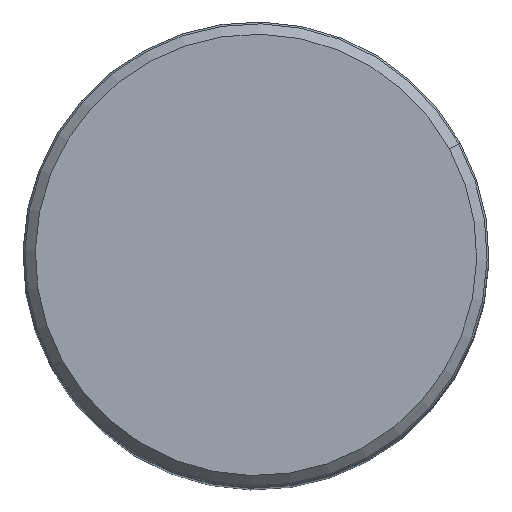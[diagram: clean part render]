
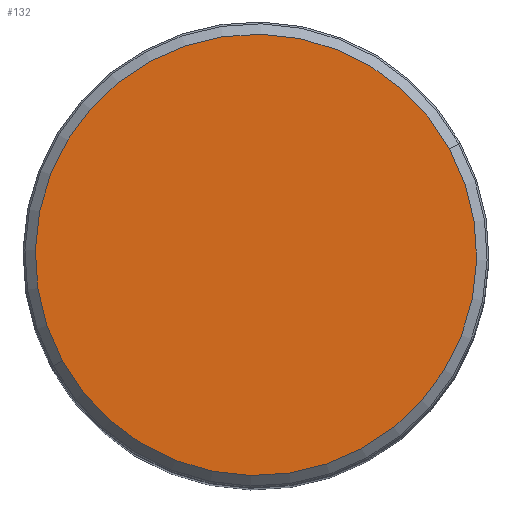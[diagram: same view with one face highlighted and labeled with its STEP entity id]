
A CAD part, top view. The second image highlights one B-rep face of the part: STEP entity #132.
In plain terms, the highlighted planar face has unit normal (0, 0, 1).
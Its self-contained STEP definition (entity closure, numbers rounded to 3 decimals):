
#109=CARTESIAN_POINT('Axis2P3D Location',(18.,0.,104.)) ;
#114=CARTESIAN_POINT('Axis2P3D Location',(0.,0.,104.)) ;
#118=CARTESIAN_POINT('Vertex',(15.796,8.63,104.)) ;
#120=CARTESIAN_POINT('Vertex',(-15.796,-8.63,104.)) ;
#123=CARTESIAN_POINT('Axis2P3D Location',(0.,0.,104.)) ;
#110=DIRECTION('Axis2P3D Direction',(0.,0.,1.)) ;
#111=DIRECTION('Axis2P3D XDirection',(1.,0.,0.)) ;
#115=DIRECTION('Axis2P3D Direction',(0.,0.,1.)) ;
#124=DIRECTION('Axis2P3D Direction',(0.,0.,1.)) ;
#112=AXIS2_PLACEMENT_3D('Plane Axis2P3D',#109,#110,#111) ;
#116=AXIS2_PLACEMENT_3D('Circle Axis2P3D',#114,#115,$) ;
#125=AXIS2_PLACEMENT_3D('Circle Axis2P3D',#123,#124,$) ;
#129=ORIENTED_EDGE('',*,*,#122,.T.) ;
#130=ORIENTED_EDGE('',*,*,#127,.T.) ;
#132=ADVANCED_FACE('',(#131),#113,.T.) ;
#117=CIRCLE('generated circle',#116,18.) ;
#126=CIRCLE('generated circle',#125,18.) ;
#122=EDGE_CURVE('',#119,#121,#117,.T.) ;
#127=EDGE_CURVE('',#121,#119,#126,.T.) ;
#128=EDGE_LOOP('',(#129,#130)) ;
#131=FACE_OUTER_BOUND('',#128,.T.) ;
#113=PLANE('Plane',#112) ;
#119=VERTEX_POINT('',#118) ;
#121=VERTEX_POINT('',#120) ;
